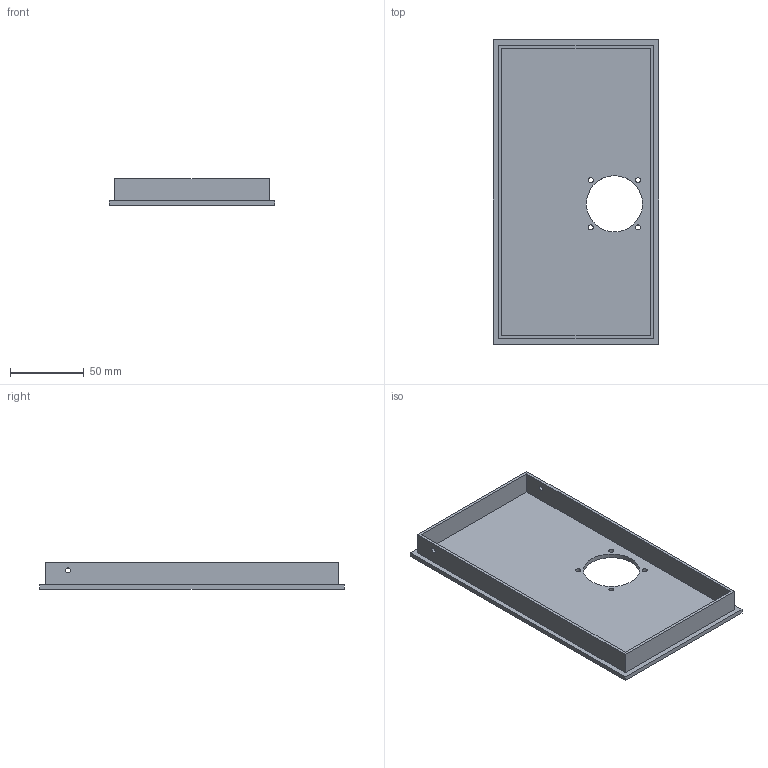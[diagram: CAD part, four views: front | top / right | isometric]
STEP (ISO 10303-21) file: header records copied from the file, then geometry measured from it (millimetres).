
FILE_DESCRIPTION(('Open CASCADE Model'),'2;1');
FILE_NAME('Open CASCADE Shape Model','2026-07-26T23:16:42',('Author'),( 'Open CASCADE'),'Open CASCADE STEP processor 7.9','Open CASCADE 7.9' ,'Unknown');
FILE_SCHEMA(('AUTOMOTIVE_DESIGN { 1 0 10303 214 1 1 1 1 }'));
Length unit declared in the file: millimetre
Products named in the file (1): Open CASCADE STEP translator 7.9 2
Bounding box: 112 x 206 x 18 mm (x, y, z)
Volume: 83656.4 mm3; surface area: 64191.9 mm2
Topology: 1 solids, 1 shells, 23 faces, 57 edges, 38 vertices
Faces by surface type: plane 16, cylinder 7
Full cylindrical faces by diameter (mm): 3.4 x6, 38 x1
Entity records: 1500 total; most frequent: CARTESIAN_POINT 305, DIRECTION 221, LINE 143, VECTOR 143, ORIENTED_EDGE 114, PCURVE 114, DEFINITIONAL_REPRESENTATION 114, EDGE_CURVE 57
